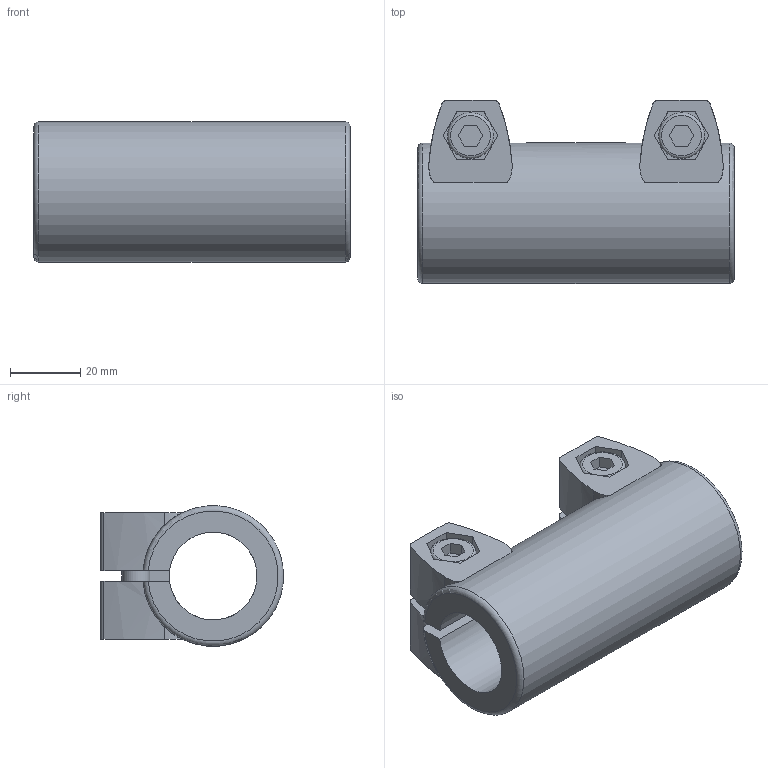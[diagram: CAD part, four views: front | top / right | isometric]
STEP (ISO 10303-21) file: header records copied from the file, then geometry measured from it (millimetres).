
FILE_DESCRIPTION( ( 'STEP AP203' ), '1' );
FILE_NAME( 'C:/Temp/Ganter_Step_05_03_2020/data/3_7/gn242/gn242_2/Tube connector GN 242-B25-B30-2-SW.stp', '2020-03-12T14:40:07', ( 'License CC BY-ND 4.0' ), ( 'CADENAS' ), ' ', 'PARTsolutions', ' ' );
FILE_SCHEMA( ( 'CONFIG_CONTROL_DESIGN' ) );
Length unit declared in the file: millimetre
Products named in the file (1): _Tube connector GN 242-B25-B30-2-SW
Bounding box: 90 x 52 x 39.96 mm (x, y, z)
Volume: 77349.6 mm3; surface area: 27935.9 mm2
Topology: 1 solids, 1 shells, 166 faces, 451 edges, 298 vertices
Faces by surface type: plane 85, cylinder 59, cone 14, torus 8
Full cylindrical faces by diameter (mm): 8 x2, 12 x2, 13 x2, 25 x1, 30 x1, 40 x1
Entity records: 5486 total; most frequent: CARTESIAN_POINT 1429, ORIENTED_EDGE 848, DIRECTION 790, EDGE_CURVE 424, VERTEX_POINT 290, AXIS2_PLACEMENT_3D 281, LINE 228, VECTOR 228
